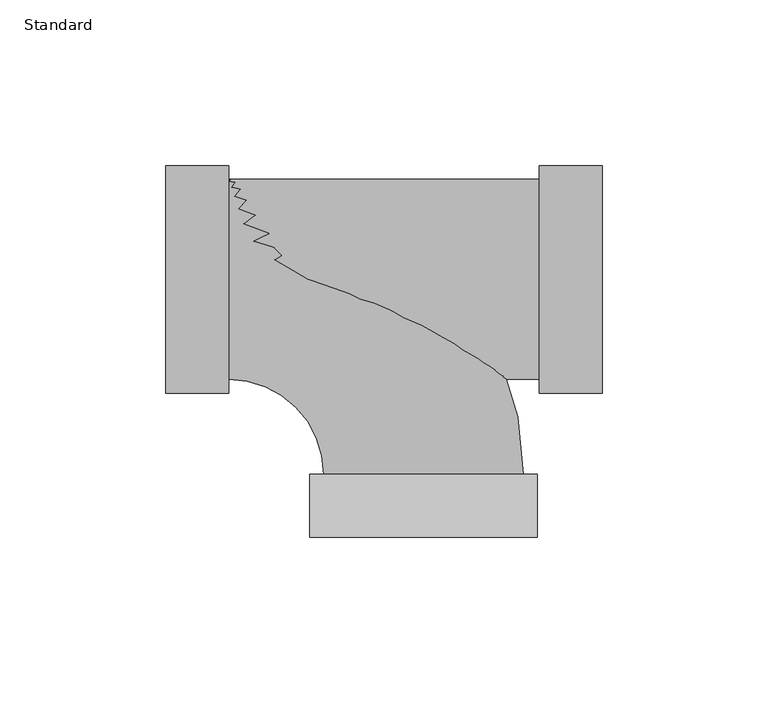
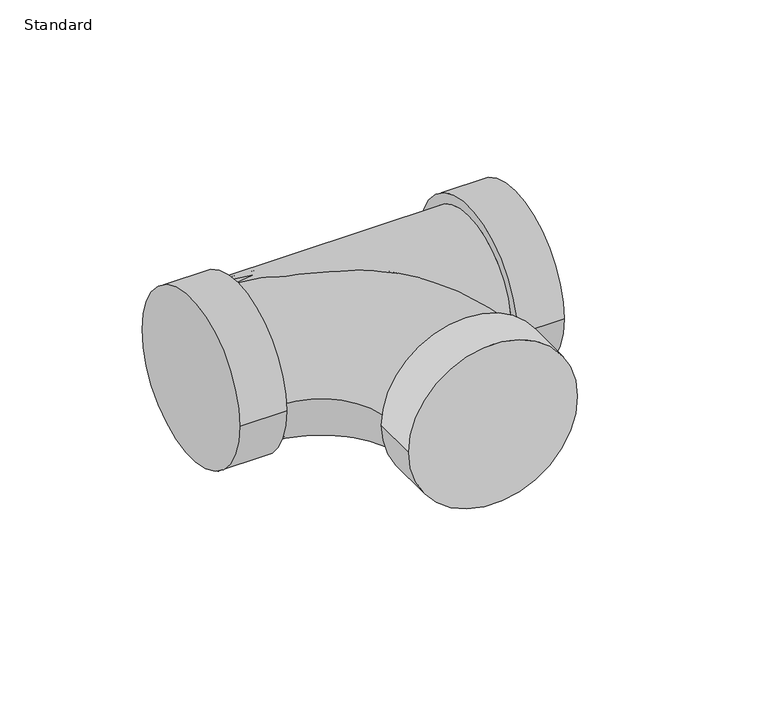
"""IFC4 building model written with IfcOpenShell, lengths in millimetres: pipe fitting geometry, Tee_Lubrizol_CPVC-FlowGuard_MX : Standard."""

from ifc_helpers import new_model, si_unit, point, frame, origin, place, context, project, spatial, circle_curve, ellipse_curve, trimmed, source, transform, mapped, element, save
from ifc_brep_helpers import plane_surface, cylinder_surface, revolved_surface, advanced_brep


def standard_5d736629(model_context):
    return source(origin(), model_context, "Body", "AdvancedBrep", [
        advanced_brep(
        [(-58.7502, -30.1625, 0.0), (-58.7502, 30.1625, 0.0), (-30.1625, -58.7502, 0.0), (30.1625, -58.7502, 0.0), (34.3154, -77.8002, 0.0), (-34.3154, -77.8002, 0.0), (34.3154, -58.7502, 0.0), (-34.3154, -58.7502, 0.0)],
        [
            (0, 1, circle_curve(frame((-58.7502, 0.0, 0.0), z_axis=(-1.0, 0.0, 0.0), x_axis=(0.0, 1.0, 0.0)), 30.1625)),
            (1, 0, circle_curve(frame((-58.7502, 0.0, 0.0), z_axis=(-1.0, 0.0, 0.0), x_axis=(0.0, 1.0, 0.0)), 30.1625)),
            (0, 2, circle_curve(frame((-58.7502, -58.7502, 0.0), z_axis=(0.0, 0.0, -1.0), x_axis=(0.0, 1.0, 0.0)), 28.5877)),
            (2, 3, circle_curve(frame((0.0, -58.7502, 0.0), z_axis=(-1.028682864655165e-12, 1.0, 0.0), x_axis=(1.0, 1.028682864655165e-12, 0.0)), 30.1625)),
            (3, 1, circle_curve(frame((-58.7502, -58.7502, 0.0), z_axis=(0.0, 0.0, 1.0), x_axis=(0.0, 1.0, 0.0)), 88.9127)),
            (3, 2, circle_curve(frame((0.0, -58.7502, 0.0), z_axis=(-1.028682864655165e-12, 1.0, 0.0), x_axis=(1.0, 1.028682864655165e-12, 0.0)), 30.1625)),
            (4, 5, circle_curve(frame((0.0, -77.8002, 0.0), z_axis=(0.0, -1.0, 0.0), x_axis=(-1.0, 0.0, 0.0)), 34.3154)),
            (5, 4, circle_curve(frame((0.0, -77.8002, 0.0), z_axis=(0.0, -1.0, 0.0), x_axis=(-1.0, 0.0, 0.0)), 34.3154)),
            (6, 7, circle_curve(frame((0.0, -58.7502, 0.0), z_axis=(0.0, 1.0, 0.0), x_axis=(-1.0, 0.0, 0.0)), 34.3154)),
            (7, 6, circle_curve(frame((0.0, -58.7502, 0.0), z_axis=(0.0, 1.0, 0.0), x_axis=(-1.0, 0.0, 0.0)), 34.3154)),
            (4, 6),
            (7, 5),
        ],
        [
            plane_surface(frame((-58.7502, 0.0, 0.0), z_axis=(-1.0, 0.0, 0.0), x_axis=(0.0, 0.0, 1.0))),
            revolved_surface(trimmed(ellipse_curve(frame((-58.7502, 0.0, 0.0), z_axis=(-1.0, 0.0, 0.0), x_axis=(0.0, 1.0, 0.0)), 30.1625, 30.1625), [point((-58.7502, -30.1625, 0.0))], [point((-58.7502, 30.1625, 0.0))], True, "CARTESIAN"), (-58.7502, -58.7502, 0.0), (0.0, 0.0, -1.0)),
            revolved_surface(trimmed(ellipse_curve(frame((-58.7502, 0.0, 0.0), z_axis=(-1.0, 0.0, 0.0), x_axis=(0.0, 1.0, 0.0)), 30.1625, 30.1625), [point((-58.7502, 30.1625, 0.0))], [point((-58.7502, -30.1625, 0.0))], True, "CARTESIAN"), (-58.7502, -58.7502, 0.0), (0.0, 0.0, -1.0)),
            plane_surface(frame((0.0, -77.8002, 0.0), z_axis=(0.0, -1.0, 0.0), x_axis=(0.0, 0.0, 1.0))),
            plane_surface(frame((0.0, -58.7502, 0.0), z_axis=(0.0, 1.0, 0.0), x_axis=(0.0, 0.0, 1.0))),
            cylinder_surface(frame((0.0, -77.8002, 0.0), z_axis=(0.0, -1.0, 0.0), x_axis=(-1.0, 0.0, 0.0)), 34.3154),
        ],
        [
            (0, [[1, 2]]),
            (1, [[-1, 3, 4, 5]]),
            (2, [[-2, -5, 6, -3]]),
            (3, [[7, 8]]),
            (4, [[9, 10], [-4, -6]]),
            (5, [[-7, 11, -10, 12]]),
            (5, [[-8, -12, -9, -11]]),
        ],
    ),
        advanced_brep(
        [(-58.7502, -30.1625, 0.0), (34.925, -30.1625, 0.0), (34.925, 30.1625, 0.0), (-58.7502, 30.1625, 0.0), (34.925, -34.3154, 0.0), (34.925, 34.3154, 0.0), (53.975, -34.3154, 0.0), (53.975, 34.3154, 0.0), (-77.8002, -34.3154, 0.0), (-77.8002, 34.3154, 0.0), (-58.7502, -34.3154, 0.0), (-58.7502, 34.3154, 0.0)],
        [
            (0, 1),
            (1, 2, circle_curve(frame((34.925, 0.0, 0.0), z_axis=(-1.0, 0.0, 0.0), x_axis=(0.0, 1.0, 0.0)), 30.1625)),
            (2, 3),
            (3, 0, circle_curve(frame((-58.7502, 0.0, 0.0), z_axis=(1.0, 0.0, 0.0), x_axis=(0.0, 1.0, 0.0)), 30.1625)),
            (0, 3, circle_curve(frame((-58.7502, 0.0, 0.0), z_axis=(1.0, 0.0, 0.0), x_axis=(0.0, 1.0, 0.0)), 30.1625)),
            (2, 1, circle_curve(frame((34.925, 0.0, 0.0), z_axis=(-1.0, 0.0, 0.0), x_axis=(0.0, 1.0, 0.0)), 30.1625)),
            (4, 5, circle_curve(frame((34.925, 0.0, 0.0), z_axis=(-1.0, 0.0, 0.0), x_axis=(0.0, 1.0, 0.0)), 34.3154)),
            (5, 4, circle_curve(frame((34.925, 0.0, 0.0), z_axis=(-1.0, 0.0, 0.0), x_axis=(0.0, 1.0, 0.0)), 34.3154)),
            (6, 7, circle_curve(frame((53.975, 0.0, 0.0), z_axis=(1.0, 0.0, 0.0), x_axis=(0.0, 1.0, 0.0)), 34.3154)),
            (7, 6, circle_curve(frame((53.975, 0.0, 0.0), z_axis=(1.0, 0.0, 0.0), x_axis=(0.0, 1.0, 0.0)), 34.3154)),
            (4, 6),
            (7, 5),
            (8, 9, circle_curve(frame((-77.8002, 0.0, 0.0), z_axis=(-1.0, 0.0, 0.0), x_axis=(0.0, 1.0, 0.0)), 34.3154)),
            (9, 8, circle_curve(frame((-77.8002, 0.0, 0.0), z_axis=(-1.0, 0.0, 0.0), x_axis=(0.0, 1.0, 0.0)), 34.3154)),
            (10, 11, circle_curve(frame((-58.7502, 0.0, 0.0), z_axis=(1.0, 0.0, 0.0), x_axis=(0.0, 1.0, 0.0)), 34.3154)),
            (11, 10, circle_curve(frame((-58.7502, 0.0, 0.0), z_axis=(1.0, 0.0, 0.0), x_axis=(0.0, 1.0, 0.0)), 34.3154)),
            (8, 10),
            (11, 9),
        ],
        [
            cylinder_surface(frame((-58.7502, 0.0, 0.0), z_axis=(-1.0, 0.0, 0.0), x_axis=(0.0, 1.0, 0.0)), 30.1625),
            plane_surface(frame((34.925, 0.0, 0.0), z_axis=(-1.0, 0.0, 0.0), x_axis=(0.0, 0.0, 1.0))),
            plane_surface(frame((53.975, 0.0, 0.0), z_axis=(1.0, 0.0, 0.0), x_axis=(0.0, 0.0, 1.0))),
            cylinder_surface(frame((34.925, 0.0, 0.0), z_axis=(-1.0, 0.0, 0.0), x_axis=(0.0, 1.0, 0.0)), 34.3154),
            plane_surface(frame((-77.8002, 0.0, 0.0), z_axis=(-1.0, 0.0, 0.0), x_axis=(0.0, 0.0, 1.0))),
            plane_surface(frame((-58.7502, 0.0, 0.0), z_axis=(1.0, 0.0, 0.0), x_axis=(0.0, 0.0, 1.0))),
            cylinder_surface(frame((-77.8002, 0.0, 0.0), z_axis=(-1.0, 0.0, 0.0), x_axis=(0.0, 1.0, 0.0)), 34.3154),
        ],
        [
            (0, [[1, 2, 3, 4]]),
            (0, [[-1, 5, -3, 6]]),
            (1, [[7, 8], [-2, -6]]),
            (2, [[9, 10]]),
            (3, [[-7, 11, -10, 12]]),
            (3, [[-8, -12, -9, -11]]),
            (4, [[13, 14]]),
            (5, [[15, 16], [-4, -5]]),
            (6, [[-13, 17, -16, 18]]),
            (6, [[-14, -18, -15, -17]]),
        ],
    ),
    ])


if __name__ == "__main__":
    model = new_model("IFC4")
    model_context = context("Model", 3, world=origin())
    ifc_project = project(units=[si_unit("LENGTHUNIT", "METRE", prefix="MILLI")], contexts=[model_context])
    site = spatial("IfcSite", under=ifc_project)
    building = spatial("IfcBuilding", under=site)
    placement = place(None, origin())
    standard_shape = standard_5d736629(model_context)
    element("IfcPipeFitting", 1, ObjectType="Tee_Lubrizol_CPVC-FlowGuard_MX : Standard", at=placement, inside=building, context=model_context, shape_type="MappedRepresentation", body=[
        mapped(standard_shape, transform((0.0, 0.0, 0.0), x_axis=(1.0, 0.0, 0.0), y_axis=(0.0, 1.0, 0.0), z_axis=(0.0, 0.0, 1.0))),
    ])
    save(model, "model.ifc")
